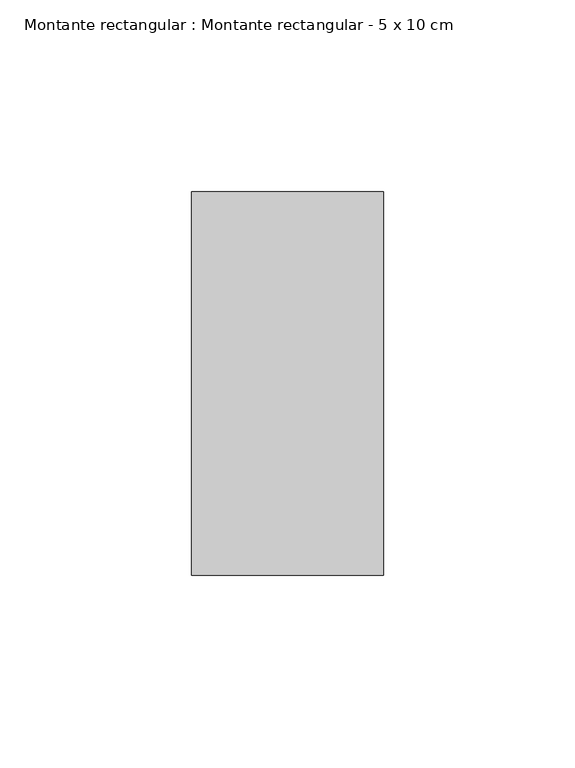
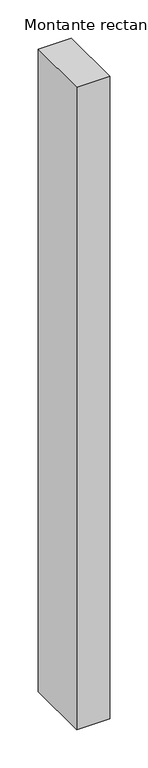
"""IFC4 building model written with IfcOpenShell, lengths in millimetres: member geometry, Montante rectangular : Montante rectangular - 5 x 10 cm."""

import ifcopenshell
import ifcopenshell.guid

model = None  # the IFC model being written
_history = None  # IfcOwnerHistory: only IFC2X3 demands one
_inside = {}  # id of a spatial element -> (the spatial element, [elements in it])
_under = {}  # id of a project, library or spatial element -> (it, [spatial elements below it])
_declared = {}  # id of a project -> (the project, [libraries it declares])
_typed = {}  # id of a type object -> (the type object, [elements of that type])
_made_of = {}  # id of a material, layer set ... -> (it, [elements and type objects made of it])


def new_model(schema):
    """Start an empty IFC model of exactly this schema.

    Asked for "IFC4X3", IfcOpenShell would pick the latest addendum, in which some entities
    have other attributes; the version numbers below select the first issue.
    IFC2X3 requires an IfcOwnerHistory on every rooted entity: one is made here for all.
    """
    global model, _history
    if schema == "IFC4X3":
        model = ifcopenshell.file(schema_version=(4, 3, 0, 0))
    else:
        model = ifcopenshell.file(schema=schema)
    _inside.clear()
    _under.clear()
    _declared.clear()
    _typed.clear()
    _made_of.clear()
    _history = None
    if model.schema == "IFC2X3":
        org = make("IfcOrganization", Name="unknown")
        user = make(
            "IfcPersonAndOrganization",
            ThePerson=make("IfcPerson", FamilyName="unknown"),
            TheOrganization=org,
        )
        app = make(
            "IfcApplication",
            ApplicationDeveloper=org,
            Version="unknown",
            ApplicationFullName="unknown",
            ApplicationIdentifier="unknown",
        )
        _history = make(
            "IfcOwnerHistory",
            OwningUser=user,
            OwningApplication=app,
            ChangeAction="ADDED",
            CreationDate=0,
        )
    return model


def make(cls, **values):
    """One entity of the class cls with the attributes given. An attribute that is None is left unset."""
    return model.create_entity(
        cls, **{name: value for name, value in values.items() if value is not None}
    )


def rooted(cls, **values):
    """An entity with a GlobalId (a new one), such as an element, a storey or a relation."""
    return make(cls, GlobalId=ifcopenshell.guid.new(), OwnerHistory=_history, **values)


def si_unit(unit_type, name, prefix=None):
    """IfcSIUnit, for example si_unit("LENGTHUNIT", "METRE", prefix="MILLI")."""
    return make("IfcSIUnit", UnitType=unit_type, Prefix=prefix, Name=name)


def assignment(units):
    """IfcUnitAssignment: the units of a project."""
    return None if units is None else make("IfcUnitAssignment", Units=units)


def point(xyz):
    """IfcCartesianPoint."""
    return None if xyz is None else make("IfcCartesianPoint", Coordinates=xyz)


def direction(xyz):
    """IfcDirection."""
    return None if xyz is None else make("IfcDirection", DirectionRatios=xyz)


def frame(location, z_axis=None, x_axis=None):
    """IfcAxis2Placement3D, a coordinate frame: its origin and axes. An axis left out is left unset."""
    return make(
        "IfcAxis2Placement3D",
        Location=point(location),
        Axis=direction(z_axis),
        RefDirection=direction(x_axis),
    )


def origin():
    """The frame at (0, 0, 0) with its axes left unset."""
    return frame((0.0, 0.0, 0.0))


def place(relative_to, where):
    """IfcLocalPlacement: puts the frame where relative to a parent placement (None: the world)."""
    return make(
        "IfcLocalPlacement", PlacementRelTo=relative_to, RelativePlacement=where
    )


def context(
    kind, dimensions, precision=None, world=None, true_north=None, identifier=None
):
    """IfcGeometricRepresentationContext, for example the 3D "Model" context."""
    return make(
        "IfcGeometricRepresentationContext",
        ContextIdentifier=identifier,
        ContextType=kind,
        CoordinateSpaceDimension=dimensions,
        Precision=precision,
        WorldCoordinateSystem=world,
        TrueNorth=true_north,
    )


def project(units=None, contexts=None):
    """IfcProject with its units and contexts."""
    return rooted(
        "IfcProject",
        Name="project",
        RepresentationContexts=contexts,
        UnitsInContext=assignment(units),
    )


def spatial(cls, under=None, at=None, **own):
    """A site, building, storey or space (cls), placed at a placement, below another one or the project."""
    s = rooted(cls, ObjectPlacement=at, **own)
    if under is not None:
        _under.setdefault(under.id(), (under, []))[1].append(s)
    return s


def polyline(points):
    """IfcPolyline through the points."""
    return make("IfcPolyline", Points=[point(p) for p in points])


def outline(outer, holes=None, kind="AREA"):
    """IfcArbitraryClosedProfileDef: a profile drawn as a closed curve; with holes, ...WithVoids."""
    if holes is None:
        return make("IfcArbitraryClosedProfileDef", ProfileType=kind, OuterCurve=outer)
    return make(
        "IfcArbitraryProfileDefWithVoids",
        ProfileType=kind,
        OuterCurve=outer,
        InnerCurves=holes,
    )


def extrude(swept, where, along, depth):
    """IfcExtrudedAreaSolid: the profile swept, set in the frame where, extruded along a direction by depth."""
    return make(
        "IfcExtrudedAreaSolid",
        SweptArea=swept,
        Position=where,
        ExtrudedDirection=direction(along),
        Depth=depth,
    )


def shape(context_of_items, identifier, shape_type, items):
    """IfcShapeRepresentation: the items that make up one representation, for example the "Body"."""
    return make(
        "IfcShapeRepresentation",
        ContextOfItems=context_of_items,
        RepresentationIdentifier=identifier,
        RepresentationType=shape_type,
        Items=items,
    )


def source(mapping_origin, context_of_items, identifier, shape_type, items):
    """IfcRepresentationMap: a shape defined once, which mapped items show again and again."""
    return make(
        "IfcRepresentationMap",
        MappingOrigin=mapping_origin,
        MappedRepresentation=shape(context_of_items, identifier, shape_type, items),
    )


def transform(
    local_origin,
    x_axis=None,
    y_axis=None,
    z_axis=None,
    scale=None,
    scale2=None,
    scale3=None,
    uniform=True,
):
    """IfcCartesianTransformationOperator3D, or its non-uniform kind. x_axis, y_axis, z_axis: its Axis1, 2, 3."""
    if uniform:
        return make(
            "IfcCartesianTransformationOperator3D",
            Axis1=direction(x_axis),
            Axis2=direction(y_axis),
            LocalOrigin=point(local_origin),
            Scale=scale,
            Axis3=direction(z_axis),
        )
    return make(
        "IfcCartesianTransformationOperator3DnonUniform",
        Axis1=direction(x_axis),
        Axis2=direction(y_axis),
        LocalOrigin=point(local_origin),
        Scale=scale,
        Axis3=direction(z_axis),
        Scale2=scale2,
        Scale3=scale3,
    )


def mapped(mapping_source, mapping_target):
    """IfcMappedItem: shows the shape of a source again, moved by a transform."""
    return make(
        "IfcMappedItem", MappingSource=mapping_source, MappingTarget=mapping_target
    )


def made_of(thing, what):
    """Note that an element or type object is made of a material, layer set ...; save() writes the relation."""
    if what is not None:
        _made_of.setdefault(what.id(), (what, []))[1].append(thing)
    return thing


def element(
    cls,
    number,
    at=None,
    inside=None,
    cuts=None,
    type_object=None,
    material=None,
    context=None,
    identifier="Body",
    shape_type=None,
    held_by="IfcProductDefinitionShape",
    body=None,
    shapes=None,
    **own,
):
    """One element of the class cls, such as IfcWall. Its Tag is "e" and its number.

    at: its placement. inside: the storey or other place that contains it. cuts: it is an
    opening in that element (IfcRelVoidsElement). A single representation is given by context,
    identifier, shape_type and body (its items); several are given by shapes. held_by: the class
    of the entity that holds the representations. save() writes the other relations.
    """
    e = rooted(cls, Tag="e%d" % number, ObjectPlacement=at, **own)
    if body is not None:
        shapes = [shape(context, identifier, shape_type, body)]
    if shapes is not None:
        e.Representation = make(held_by, Representations=shapes)
    if inside is not None:
        _inside.setdefault(inside.id(), (inside, []))[1].append(e)
    if cuts is not None:
        rooted(
            "IfcRelVoidsElement", RelatingBuildingElement=cuts, RelatedOpeningElement=e
        )
    if type_object is not None:
        _typed.setdefault(type_object.id(), (type_object, []))[1].append(e)
    return made_of(e, material)


def aggregate(whole, parts):
    """IfcRelAggregates: a whole, such as a stair, and the parts it consists of."""
    return rooted("IfcRelAggregates", RelatingObject=whole, RelatedObjects=parts)


def save(model, path):
    """Write the relations noted so far, then the file.

    IfcRelAggregates (storeys below a building ...), IfcRelContainedInSpatialStructure (elements
    in a storey), IfcRelDefinesByType, IfcRelAssociatesMaterial and IfcRelDeclares: one each for
    every whole, place, type object, material and project.
    """
    for whole, parts in _under.values():
        aggregate(whole, parts)
    for where, things in _inside.values():
        rooted(
            "IfcRelContainedInSpatialStructure",
            RelatedElements=things,
            RelatingStructure=where,
        )
    for kind, things in _typed.values():
        rooted("IfcRelDefinesByType", RelatedObjects=things, RelatingType=kind)
    for what, things in _made_of.values():
        rooted("IfcRelAssociatesMaterial", RelatedObjects=things, RelatingMaterial=what)
    for by, libraries in _declared.values():
        rooted("IfcRelDeclares", RelatingContext=by, RelatedDefinitions=libraries)
    model.write(path)


def montante_rectangular_montante_rectangular_5_x_10_cm_6172d8cb(model_context):
    return source(origin(), model_context, "Body", "SweptSolid", [
        extrude(outline(polyline([(-50.0, 50.0), (0.0, 50.0), (0.0, -50.0), (-50.0, -50.0), (-50.0, 50.0)])), frame((0.0, 0.0, -1025.0), z_axis=(0.0, 0.0, 1.0), x_axis=(1.0, 0.0, 0.0)), (0.0, 0.0, 1.0), 1025.0),
    ])


if __name__ == "__main__":
    model = new_model("IFC4")
    model_context = context("Model", 3, world=origin())
    ifc_project = project(units=[si_unit("LENGTHUNIT", "METRE", prefix="MILLI")], contexts=[model_context])
    site = spatial("IfcSite", under=ifc_project)
    building = spatial("IfcBuilding", under=site)
    placement = place(None, origin())
    montante_rectangular_montante_rectangular_5_x_10_cm_shape = montante_rectangular_montante_rectangular_5_x_10_cm_6172d8cb(model_context)
    element("IfcMember", 1, ObjectType="Montante rectangular : Montante rectangular - 5 x 10 cm", at=placement, inside=building, context=model_context, shape_type="MappedRepresentation", body=[
        mapped(montante_rectangular_montante_rectangular_5_x_10_cm_shape, transform((0.0, 0.0, 0.0), x_axis=(1.0, 0.0, 0.0), y_axis=(0.0, 1.0, 0.0), z_axis=(0.0, 0.0, 1.0))),
    ])
    save(model, "model.ifc")
